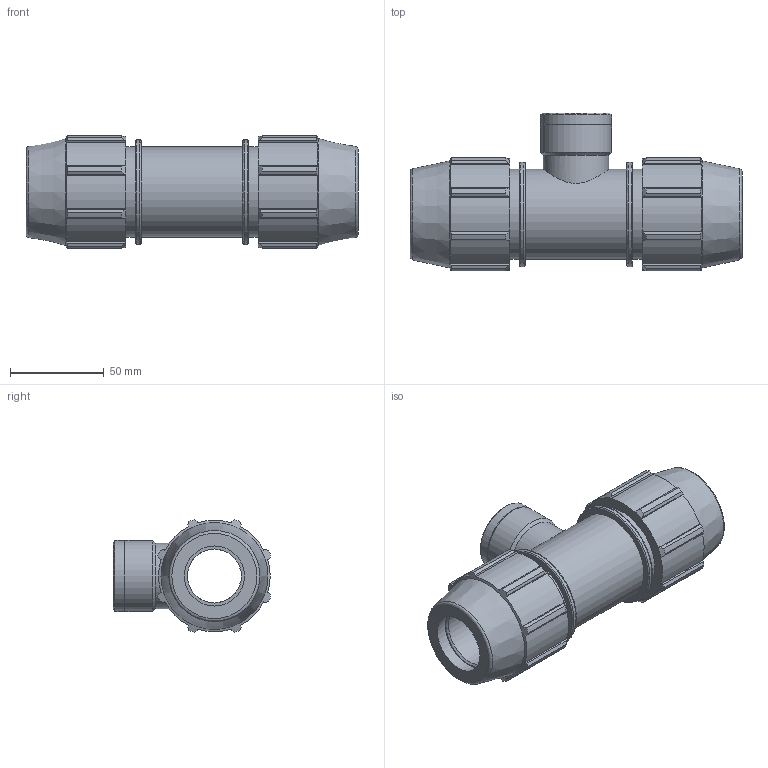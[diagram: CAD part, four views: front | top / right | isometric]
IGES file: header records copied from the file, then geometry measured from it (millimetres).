
Global section: file name: 071400032010_181400032010_0714060320100A.ipt; native system: Autodesk Inventor 2015; preprocessor: unknown; author: KIM; date: 20170606.172150; units: millimetre
Bounding box: 177 x 84.11 x 60.22 mm (x, y, z)
Volume: 274332.9 mm3; surface area: 62900.5 mm2
Topology: 1 solids, 1 shells, 157 faces, 443 edges, 299 vertices
Faces by surface type: plane 79, cylinder 40, cone 23, revolution 15
Full cylindrical faces by diameter (mm): 34.835 x1, 37.864 x2, 48 x3, 55.68 x2
